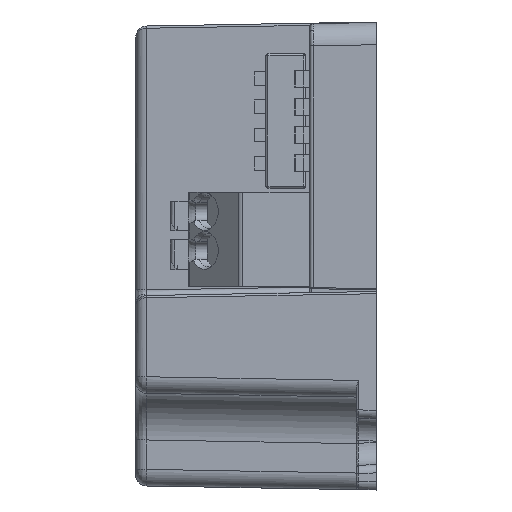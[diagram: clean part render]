
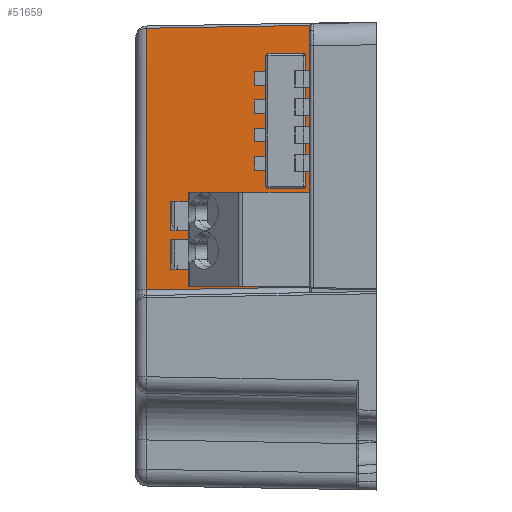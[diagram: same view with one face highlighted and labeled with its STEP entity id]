
A CAD part, left-side view. The second image highlights one B-rep face of the part: STEP entity #51659.
In plain terms, the highlighted planar face has unit normal (-1, 0.018, 0).
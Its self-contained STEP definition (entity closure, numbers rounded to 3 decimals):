
#105 = PLANE ( 'NONE',  #38408 ) ;
#3982 = VERTEX_POINT ( 'NONE', #44125 ) ;
#4036 = ORIENTED_EDGE ( 'NONE', *, *, #8689, .T. ) ;
#4306 = DIRECTION ( 'NONE',  ( -0.017, -1., 0. ) ) ;
#4598 = CARTESIAN_POINT ( 'NONE',  ( -33.85, 5.756, 20.206 ) ) ;
#5367 = CARTESIAN_POINT ( 'NONE',  ( -33.945, 0.292, 20.349 ) ) ;
#5962 = LINE ( 'NONE', #4598, #26844 ) ;
#6623 = CARTESIAN_POINT ( 'NONE',  ( -33.588, 20.717, -21.1 ) ) ;
#8613 = CARTESIAN_POINT ( 'NONE',  ( -33.588, 20.717, -3.062 ) ) ;
#8663 = CARTESIAN_POINT ( 'NONE',  ( -33.95, 0., -21.1 ) ) ;
#8689 = EDGE_CURVE ( 'NONE', #19124, #40014, #8718, .T. ) ;
#8718 = LINE ( 'NONE', #38435, #40719 ) ;
#8759 = CARTESIAN_POINT ( 'NONE',  ( -33.95, 0., 20.649 ) ) ;
#8823 = EDGE_CURVE ( 'NONE', #33956, #3982, #19387, .T. ) ;
#9525 = VECTOR ( 'NONE', #15215, 1000. ) ;
#9819 = CARTESIAN_POINT ( 'NONE',  ( -33.945, 0.292, 20.349 ) ) ;
#9955 =( BOUNDED_CURVE ( )  B_SPLINE_CURVE ( 3, ( #9819, #34833, #13986, #43172 ),
 .UNSPECIFIED., .F., .F. ) 
 B_SPLINE_CURVE_WITH_KNOTS ( ( 4, 4 ),
 ( 4.739, 6.283 ),
 .UNSPECIFIED. ) 
 CURVE ( )  GEOMETRIC_REPRESENTATION_ITEM ( )  RATIONAL_B_SPLINE_CURVE ( ( 1., 0.811, 0.811, 1. ) ) 
 REPRESENTATION_ITEM ( '' )  );
#10357 = CARTESIAN_POINT ( 'NONE',  ( -33.845, 6., 20.12 ) ) ;
#11873 = VERTEX_POINT ( 'NONE', #8613 ) ;
#12191 = LINE ( 'NONE', #52702, #49461 ) ;
#12837 = DIRECTION ( 'NONE',  ( 0., 0., 1. ) ) ;
#13071 = CARTESIAN_POINT ( 'NONE',  ( -33.845, 6., 20.2 ) ) ;
#13360 = VERTEX_POINT ( 'NONE', #5367 ) ;
#13392 = DIRECTION ( 'NONE',  ( 0.017, 1., -0.026 ) ) ;
#13426 = DIRECTION ( 'NONE',  ( 0.017, 1., -0.017 ) ) ;
#13986 = CARTESIAN_POINT ( 'NONE',  ( -33.95, 0., 20.477 ) ) ;
#15215 = DIRECTION ( 'NONE',  ( 0., 0., -1. ) ) ;
#15409 = CARTESIAN_POINT ( 'NONE',  ( -33.95, 0., 20.9 ) ) ;
#18675 = CARTESIAN_POINT ( 'NONE',  ( -33.849, 5.805, 20.205 ) ) ;
#19081 = EDGE_CURVE ( 'NONE', #40014, #11873, #20586, .T. ) ;
#19124 = VERTEX_POINT ( 'NONE', #15409 ) ;
#19387 =( BOUNDED_CURVE ( )  B_SPLINE_CURVE ( 3, ( #39524, #10357, #43713, #18675 ),
 .UNSPECIFIED., .F., .F. ) 
 B_SPLINE_CURVE_WITH_KNOTS ( ( 4, 4 ),
 ( 3.142, 4.686 ),
 .UNSPECIFIED. ) 
 CURVE ( )  GEOMETRIC_REPRESENTATION_ITEM ( )  RATIONAL_B_SPLINE_CURVE ( ( 1., 0.811, 0.811, 1. ) ) 
 REPRESENTATION_ITEM ( '' )  );
#20559 = ORIENTED_EDGE ( 'NONE', *, *, #19081, .T. ) ;
#20586 = LINE ( 'NONE', #6623, #9525 ) ;
#20701 = LINE ( 'NONE', #8663, #52759 ) ;
#20899 = CARTESIAN_POINT ( 'NONE',  ( -33.95, 0., -21.1 ) ) ;
#21489 = DIRECTION ( 'NONE',  ( 0., 0., -1. ) ) ;
#25080 = ORIENTED_EDGE ( 'NONE', *, *, #31209, .T. ) ;
#25928 = CARTESIAN_POINT ( 'NONE',  ( -33.588, 20.717, 20.538 ) ) ;
#26730 = EDGE_CURVE ( 'NONE', #33956, #32121, #33458, .T. ) ;
#26844 = VECTOR ( 'NONE', #13392, 1000. ) ;
#27653 = DIRECTION ( 'NONE',  ( -0.017, -1., 0.017 ) ) ;
#31209 = EDGE_CURVE ( 'NONE', #49778, #19124, #20701, .T. ) ;
#32121 = VERTEX_POINT ( 'NONE', #39830 ) ;
#32696 = ORIENTED_EDGE ( 'NONE', *, *, #54011, .T. ) ;
#32966 = ORIENTED_EDGE ( 'NONE', *, *, #8823, .T. ) ;
#33123 = EDGE_CURVE ( 'NONE', #13360, #49778, #9955, .T. ) ;
#33458 = LINE ( 'NONE', #13071, #43208 ) ;
#33956 = VERTEX_POINT ( 'NONE', #48276 ) ;
#34240 = EDGE_CURVE ( 'NONE', #13360, #3982, #5962, .T. ) ;
#34670 = EDGE_LOOP ( 'NONE', ( #36852, #47951, #25080, #4036, #20559, #32696, #42470, #32966 ) ) ;
#34833 = CARTESIAN_POINT ( 'NONE',  ( -33.948, 0.12, 20.354 ) ) ;
#36852 = ORIENTED_EDGE ( 'NONE', *, *, #34240, .F. ) ;
#38408 = AXIS2_PLACEMENT_3D ( 'NONE', #20899, #41684, #4306 ) ;
#38435 = CARTESIAN_POINT ( 'NONE',  ( -33.937, 0.733, 20.887 ) ) ;
#39524 = CARTESIAN_POINT ( 'NONE',  ( -33.845, 6., 20.005 ) ) ;
#39830 = CARTESIAN_POINT ( 'NONE',  ( -33.845, 6., -2.805 ) ) ;
#40014 = VERTEX_POINT ( 'NONE', #25928 ) ;
#40719 = VECTOR ( 'NONE', #13426, 1000. ) ;
#41656 = FACE_OUTER_BOUND ( 'NONE', #34670, .T. ) ;
#41684 = DIRECTION ( 'NONE',  ( -1., 0.017, 0. ) ) ;
#42470 = ORIENTED_EDGE ( 'NONE', *, *, #26730, .F. ) ;
#43172 = CARTESIAN_POINT ( 'NONE',  ( -33.95, 0., 20.649 ) ) ;
#43208 = VECTOR ( 'NONE', #21489, 1000. ) ;
#43713 = CARTESIAN_POINT ( 'NONE',  ( -33.847, 5.92, 20.202 ) ) ;
#44125 = CARTESIAN_POINT ( 'NONE',  ( -33.849, 5.805, 20.205 ) ) ;
#47951 = ORIENTED_EDGE ( 'NONE', *, *, #33123, .T. ) ;
#48276 = CARTESIAN_POINT ( 'NONE',  ( -33.845, 6., 20.005 ) ) ;
#49461 = VECTOR ( 'NONE', #27653, 1000. ) ;
#49778 = VERTEX_POINT ( 'NONE', #8759 ) ;
#51659 = ADVANCED_FACE ( 'NONE', ( #41656 ), #105, .T. ) ;
#52702 = CARTESIAN_POINT ( 'NONE',  ( -33.944, 0.321, -2.706 ) ) ;
#52759 = VECTOR ( 'NONE', #12837, 1000. ) ;
#54011 = EDGE_CURVE ( 'NONE', #11873, #32121, #12191, .T. ) ;
